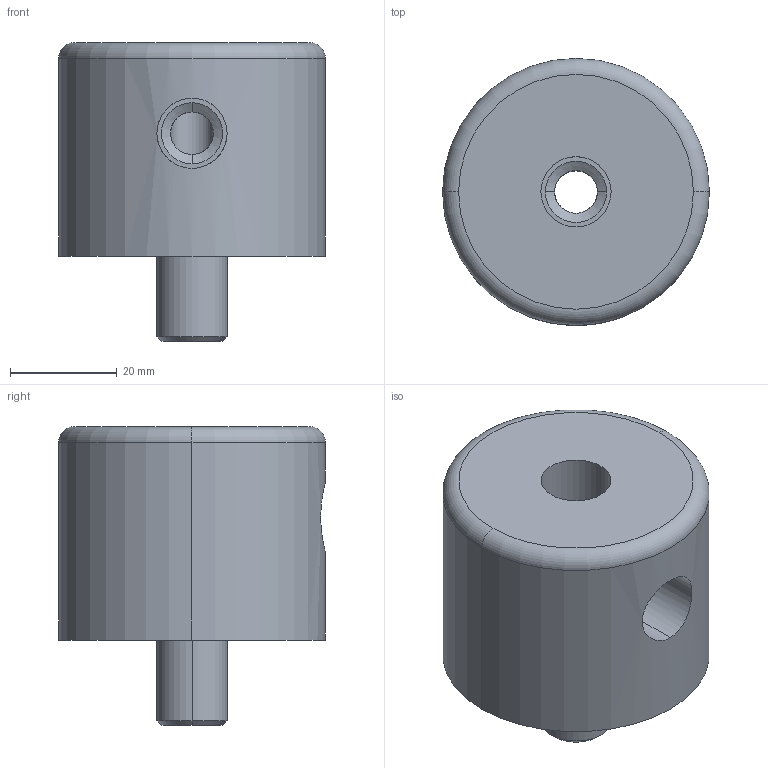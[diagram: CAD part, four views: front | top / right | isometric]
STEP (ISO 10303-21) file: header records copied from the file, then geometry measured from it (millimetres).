
FILE_DESCRIPTION (( 'STEP AP214' ), '1' );
FILE_NAME ('BruyRubio_BR96__1_4_GAS.STEP', '2019-12-17T14:42:07', ( '' ), ( '' ), 'SwSTEP 2.0', 'SolidWorks 2017', '' );
FILE_SCHEMA (( 'AUTOMOTIVE_DESIGN' ));
Length unit declared in the file: millimetre
Products named in the file (1): BruyRubio_BR96__1_4_GAS
Bounding box: 50 x 50 x 56 mm (x, y, z)
Volume: 74664 mm3; surface area: 13908.9 mm2
Topology: 2 solids, 2 shells, 35 faces, 74 edges, 44 vertices
Faces by surface type: cylinder 21, cone 6, plane 6, torus 2
Entity records: 1464 total; most frequent: CARTESIAN_POINT 254, DIRECTION 180, ORIENTED_EDGE 148, AXIS2_PLACEMENT_3D 76, EDGE_CURVE 74, VERTEX_POINT 44, EDGE_LOOP 42, CIRCLE 40
